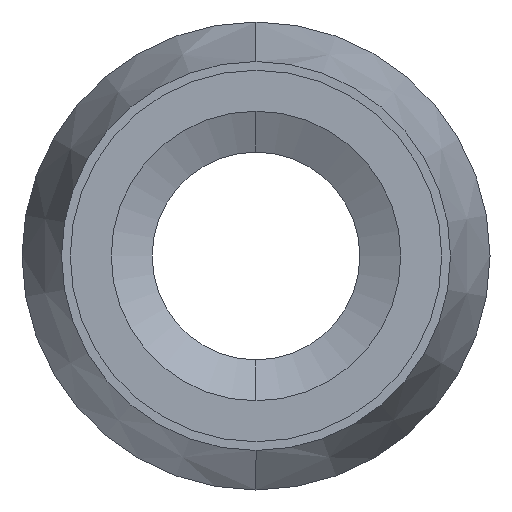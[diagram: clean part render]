
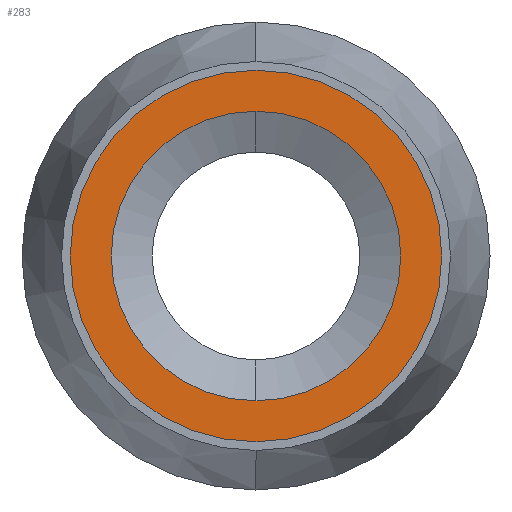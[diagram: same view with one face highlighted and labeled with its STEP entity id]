
A CAD part, left-side view. The second image highlights one B-rep face of the part: STEP entity #283.
In plain terms, the highlighted planar face has unit normal (-1, 0, 0).
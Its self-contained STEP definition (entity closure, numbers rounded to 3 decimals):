
#2 = VERTEX_POINT ( 'NONE', #324 ) ;
#75 = VERTEX_POINT ( 'NONE', #525 ) ;
#77 = EDGE_CURVE ( 'NONE', #78, #75, #524, .T. ) ;
#78 = VERTEX_POINT ( 'NONE', #519 ) ;
#107 = VERTEX_POINT ( 'NONE', #469 ) ;
#109 = EDGE_CURVE ( 'NONE', #107, #2, #468, .T. ) ;
#282 = EDGE_CURVE ( 'NONE', #75, #78, #914, .T. ) ;
#283 = ADVANCED_FACE ( 'NONE', ( #910, #909 ), #908, .F. ) ;
#284 = EDGE_LOOP ( 'NONE', ( #285, #287 ) ) ;
#285 = ORIENTED_EDGE ( 'NONE', *, *, #286, .F. ) ;
#286 = EDGE_CURVE ( 'NONE', #2, #107, #902, .T. ) ;
#287 = ORIENTED_EDGE ( 'NONE', *, *, #109, .F. ) ;
#288 = EDGE_LOOP ( 'NONE', ( #289, #290 ) ) ;
#289 = ORIENTED_EDGE ( 'NONE', *, *, #77, .T. ) ;
#290 = ORIENTED_EDGE ( 'NONE', *, *, #282, .T. ) ;
#324 = CARTESIAN_POINT ( 'NONE',  ( 2.8, 0., 4.95 ) ) ;
#464 = DIRECTION ( 'NONE',  ( 0., 0., 1. ) ) ;
#465 = DIRECTION ( 'NONE',  ( -1., 0., 0. ) ) ;
#466 = CARTESIAN_POINT ( 'NONE',  ( 2.8, 0., 0. ) ) ;
#467 = AXIS2_PLACEMENT_3D ( 'NONE', #466, #465, #464 ) ;
#468 = CIRCLE ( 'NONE', #467, 4.95 ) ;
#469 = CARTESIAN_POINT ( 'NONE',  ( 2.8, 0., -4.95 ) ) ;
#519 = CARTESIAN_POINT ( 'NONE',  ( 2.8, 0., 6.35 ) ) ;
#520 = DIRECTION ( 'NONE',  ( 0., 0., 1. ) ) ;
#521 = DIRECTION ( 'NONE',  ( -1., 0., 0. ) ) ;
#522 = CARTESIAN_POINT ( 'NONE',  ( 2.8, 0., 0. ) ) ;
#523 = AXIS2_PLACEMENT_3D ( 'NONE', #522, #521, #520 ) ;
#524 = CIRCLE ( 'NONE', #523, 6.35 ) ;
#525 = CARTESIAN_POINT ( 'NONE',  ( 2.8, 0., -6.35 ) ) ;
#899 = DIRECTION ( 'NONE',  ( 0., 0., 1. ) ) ;
#900 = DIRECTION ( 'NONE',  ( -1., 0., 0. ) ) ;
#901 = AXIS2_PLACEMENT_3D ( 'NONE', #906, #900, #899 ) ;
#902 = CIRCLE ( 'NONE', #901, 4.95 ) ;
#903 = DIRECTION ( 'NONE',  ( 0., 0., -1. ) ) ;
#904 = DIRECTION ( 'NONE',  ( 1., 0., 0. ) ) ;
#905 = AXIS2_PLACEMENT_3D ( 'NONE', #907, #904, #903 ) ;
#906 = CARTESIAN_POINT ( 'NONE',  ( 2.8, 0., 0. ) ) ;
#907 = CARTESIAN_POINT ( 'NONE',  ( 2.8, 0., 0. ) ) ;
#908 = PLANE ( 'NONE',  #905 ) ;
#909 = FACE_OUTER_BOUND ( 'NONE', #288, .T. ) ;
#910 = FACE_BOUND ( 'NONE', #284, .T. ) ;
#911 = DIRECTION ( 'NONE',  ( 0., 0., 1. ) ) ;
#912 = DIRECTION ( 'NONE',  ( -1., 0., 0. ) ) ;
#913 = AXIS2_PLACEMENT_3D ( 'NONE', #919, #912, #911 ) ;
#914 = CIRCLE ( 'NONE', #913, 6.35 ) ;
#919 = CARTESIAN_POINT ( 'NONE',  ( 2.8, 0., 0. ) ) ;
